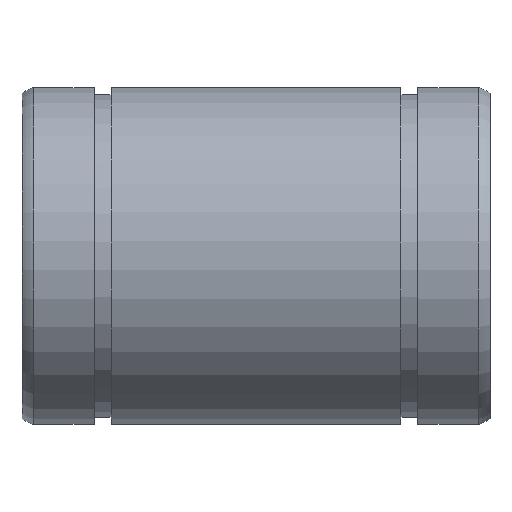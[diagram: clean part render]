
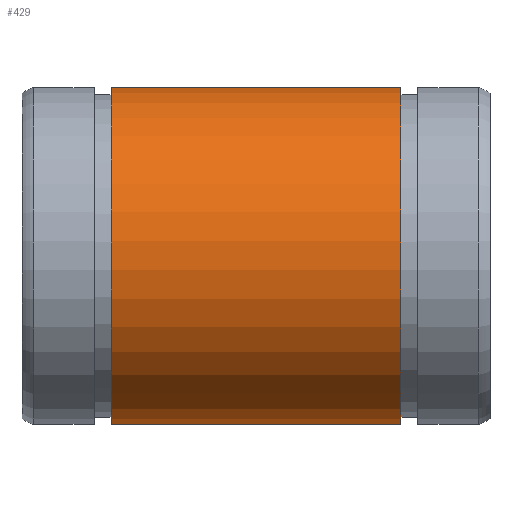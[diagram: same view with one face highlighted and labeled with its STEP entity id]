
A CAD part, top view. The second image highlights one B-rep face of the part: STEP entity #429.
In plain terms, the highlighted cylindrical face has radius 13 mm (diameter 26 mm), a partial arc.
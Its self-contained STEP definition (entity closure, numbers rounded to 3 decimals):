
#174=CARTESIAN_POINT('',(6.85,7.518,-10.606));
#175=VERTEX_POINT('',#174);
#182=CARTESIAN_POINT('',(29.15,7.518,-10.606));
#183=VERTEX_POINT('',#182);
#184=CARTESIAN_POINT('',(29.15,7.518,-10.606));
#185=DIRECTION('',(-1.0,0.0,0.0));
#186=VECTOR('',#185,22.3);
#187=LINE('',#184,#186);
#188=EDGE_CURVE('',#183,#175,#187,.T.);
#230=CARTESIAN_POINT('',(29.15,-7.518,-10.606));
#231=VERTEX_POINT('',#230);
#238=CARTESIAN_POINT('',(6.85,-7.518,-10.606));
#239=VERTEX_POINT('',#238);
#240=CARTESIAN_POINT('',(6.85,-7.518,-10.606));
#241=DIRECTION('',(1.0,0.0,0.0));
#242=VECTOR('',#241,22.3);
#243=LINE('',#240,#242);
#244=EDGE_CURVE('',#239,#231,#243,.T.);
#400=CARTESIAN_POINT('',(29.15,0.0,0.));
#401=DIRECTION('',(-1.0,0.0,0.0));
#402=DIRECTION('',(0.0,0.0,1.0));
#403=AXIS2_PLACEMENT_3D('',#400,#401,#402);
#404=CIRCLE('',#403,13.);
#405=EDGE_CURVE('',#231,#183,#404,.T.);
#412=CARTESIAN_POINT('',(18.,0.0,0.));
#413=DIRECTION('',(-1.0,0.0,0.0));
#414=DIRECTION('',(0.0,0.0,1.0));
#415=AXIS2_PLACEMENT_3D('',#412,#413,#414);
#416=CYLINDRICAL_SURFACE('',#415,13.);
#417=ORIENTED_EDGE('',*,*,#188,.T.);
#418=CARTESIAN_POINT('',(6.85,0.0,0.));
#419=DIRECTION('',(-1.0,0.0,0.0));
#420=DIRECTION('',(0.0,0.0,1.0));
#421=AXIS2_PLACEMENT_3D('',#418,#419,#420);
#422=CIRCLE('',#421,13.);
#423=EDGE_CURVE('',#239,#175,#422,.T.);
#424=ORIENTED_EDGE('',*,*,#423,.F.);
#425=ORIENTED_EDGE('',*,*,#244,.T.);
#426=ORIENTED_EDGE('',*,*,#405,.T.);
#427=EDGE_LOOP('',(#417,#424,#425,#426));
#428=FACE_OUTER_BOUND('',#427,.T.);
#429=ADVANCED_FACE('',(#428),#416,.T.);
